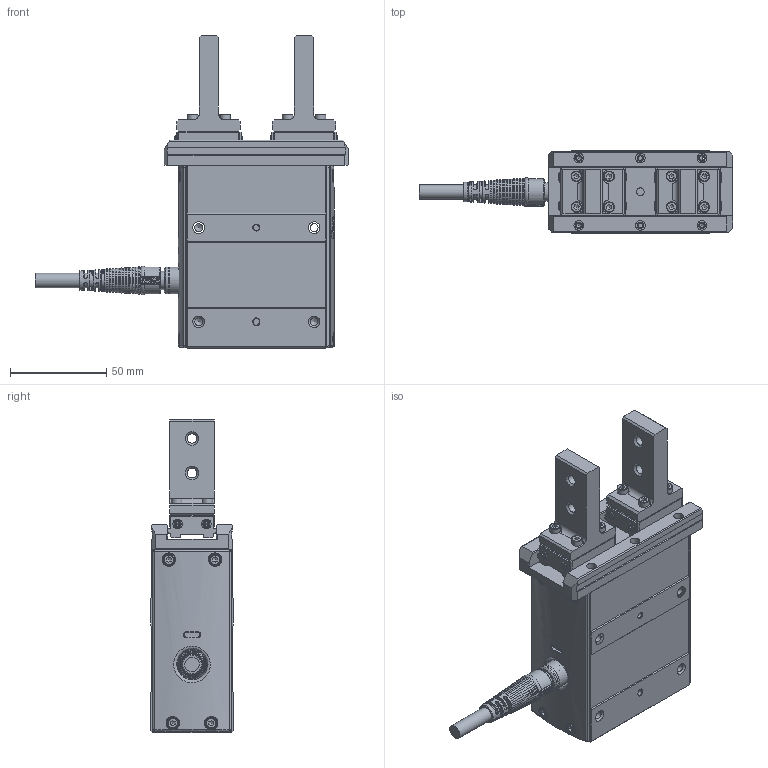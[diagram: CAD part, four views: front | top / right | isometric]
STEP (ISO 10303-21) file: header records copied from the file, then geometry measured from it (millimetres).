
FILE_DESCRIPTION(/* description */ (''),/* implementation_level */ '2;1');
FILE_NAME(/* name */ 'D:\2025.02.25 帶電匯整給泊舟\CHZ2-N22-180.stp',/* time_stamp */ '2025-02-26T11:03:26+08:00',/* author */ ('T10033'),/* organization */ (''),/* preprocessor_version */ 'ST-DEVELOPER v18.1',/* originating_system */ 'Autodesk Inventor 2020',/* authorisation */ '');
FILE_SCHEMA (('CONFIG_CONTROL_DESIGN'));
Products named in the file (11): CHZ2-N22_(線直出+帶夾具); 12008-000057-02_蓋板修改; 慶陞金屬頭; M12-14PIN 線端180度接頭-05中繼線; 6WT3E5DF_Shrinkwrap_1; 63T6E3_Shrinkwrap_1; 43Y6E3TR_Shrinkwrap_1; 326TW3T6SER; 234T63GYETRRRR; 12021-000017_夾具; ANSI B18.3.1M - M3x0.5 x 12(1)
Assembly tree (18 placements, depth 3):
  CHZ2-N22_(線直出+帶夾具)
    12008-000057-02_蓋板修改
    慶陞金屬頭
    M12-14PIN 線端180度接頭-05中繼線
    6WT3E5DF_Shrinkwrap_1
    63T6E3_Shrinkwrap_1
    43Y6E3TR_Shrinkwrap_1
    326TW3T6SER
      12021-000017_夾具
      ANSI B18.3.1M - M3x0.5 x 12(1)  x4
    234T63GYETRRRR
      12021-000017_夾具
      ANSI B18.3.1M - M3x0.5 x 12(1)  x4
Bounding box: 162.9 x 43 x 163 mm (x, y, z)
Volume: 396747.8 mm3; surface area: 94744.1 mm2
Topology: 57 solids, 57 shells, 2583 faces, 7011 edges, 4675 vertices
Faces by surface type: plane 1313, cylinder 569, cone 427, bspline 164, torus 90, sphere 20
Full cylindrical faces by diameter (mm): 0.6 x14, 0.65 x14, 0.8 x2, 1 x14, 2 x2, 2.013 x8, 2.224 x8, 2.459 x22, 2.5 x8, 2.7 x8, 2.8 x3, 3 x30, 3.2 x8, 3.4 x6, 4 x3, 4.134 x12, 4.917 x4, 5 x14, 5.5 x20, 6.647 x2, 7.5 x1, 8 x3, 8.9 x1, 9.5 x2, 9.6 x1, 10.5 x2, 11 x1, 11.2 x5, 12 x1, 13 x1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
Entity records: 96475 total; most frequent: CARTESIAN_POINT 30957, DIRECTION 13405, ORIENTED_EDGE 13156, EDGE_CURVE 6578, AXIS2_PLACEMENT_3D 5113, VERTEX_POINT 4390, LINE 3179, VECTOR 3179
